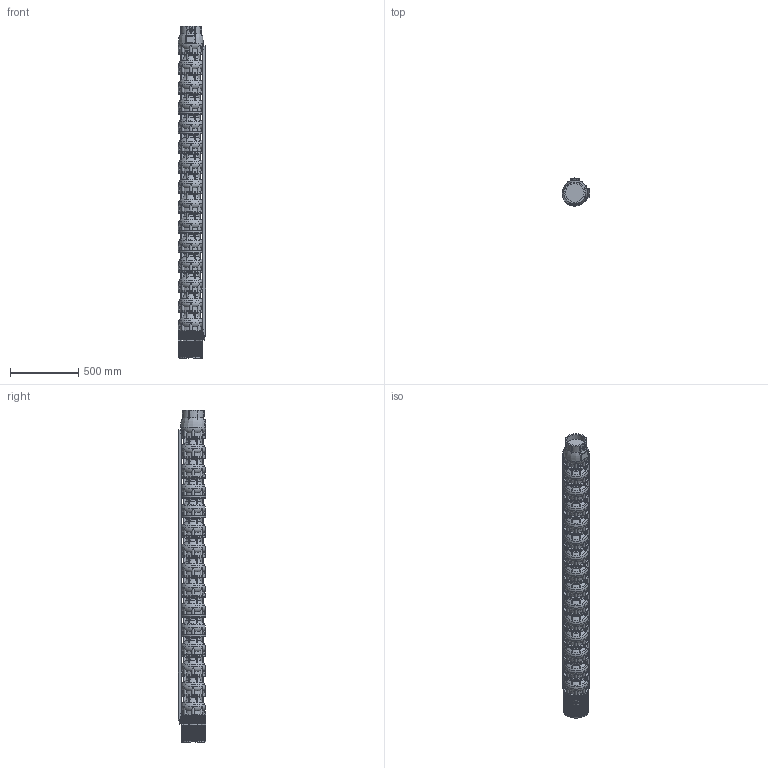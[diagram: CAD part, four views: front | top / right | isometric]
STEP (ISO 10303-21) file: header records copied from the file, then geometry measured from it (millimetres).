
FILE_DESCRIPTION(/* description */ ('Unknown'),/* implementation_level */ '2;1');
FILE_NAME(/* name */ 'VSI134-14_WR_M8-50_SLE',/* time_stamp */ '2023-09-14T14:58:38+02:00',/* author */ ('Unknown'),/* organization */ ('Unknown'),/* preprocessor_version */ 'ST-DEVELOPER v18.102',/* originating_system */ 'Solid Edge',/* authorisation */ 'Unknown');
FILE_SCHEMA (('FEATURE_BASED_PROCESS_PLANNING','TECHNICAL_DATA_PACKAGING','AUTOMOTIVE_DESIGN {1 0 10303 214 3 1 1}'));
Products named in the file (11): VSI134-14_WR_M8-50_SLE; VSI134_testata; VSI134_diffusore; VSI134_supporto_8×8; VSI134_filtro_A; VSI134_filtro_B; VSI134_terminale_top_copricavo_basso; VSI134_terminale_bottom_copricavo_basso; LOW 134-14; M5X8_UNI7687; VSI134_giunto_8×8
Assembly tree (37 placements, depth 2):
  VSI134-14_WR_M8-50_SLE
    VSI134_testata
    VSI134_diffusore  x14
    VSI134_supporto_8×8
    VSI134_filtro_A
    VSI134_filtro_B
    VSI134_terminale_top_copricavo_basso  x2
    VSI134_terminale_bottom_copricavo_basso  x2
    LOW 134-14  x2
    M5X8_UNI7687  x12
    VSI134_giunto_8×8
Bounding box: 201.57 x 202.09 x 2427 mm (x, y, z)
Volume: 44834821.1 mm3; surface area: 3701015.5 mm2
Topology: 76 solids, 78 shells, 4937 faces, 13929 edges, 9298 vertices
Faces by surface type: plane 3516, torus 658, cylinder 649, cone 69, bspline 31, sphere 14
Full cylindrical faces by diameter (mm): 2.4 x2, 3 x2, 4.2 x16, 5 x12, 5.5 x8, 26 x1, 44 x1, 69 x1, 74 x1, 98 x1, 135.472 x1, 157 x1, 182 x15
Entity records: 85609 total; most frequent: CARTESIAN_POINT 18370, ORIENTED_EDGE 14056, DIRECTION 13504, EDGE_CURVE 7028, VERTEX_POINT 4730, AXIS2_PLACEMENT_3D 4603, LINE 4298, VECTOR 4298
